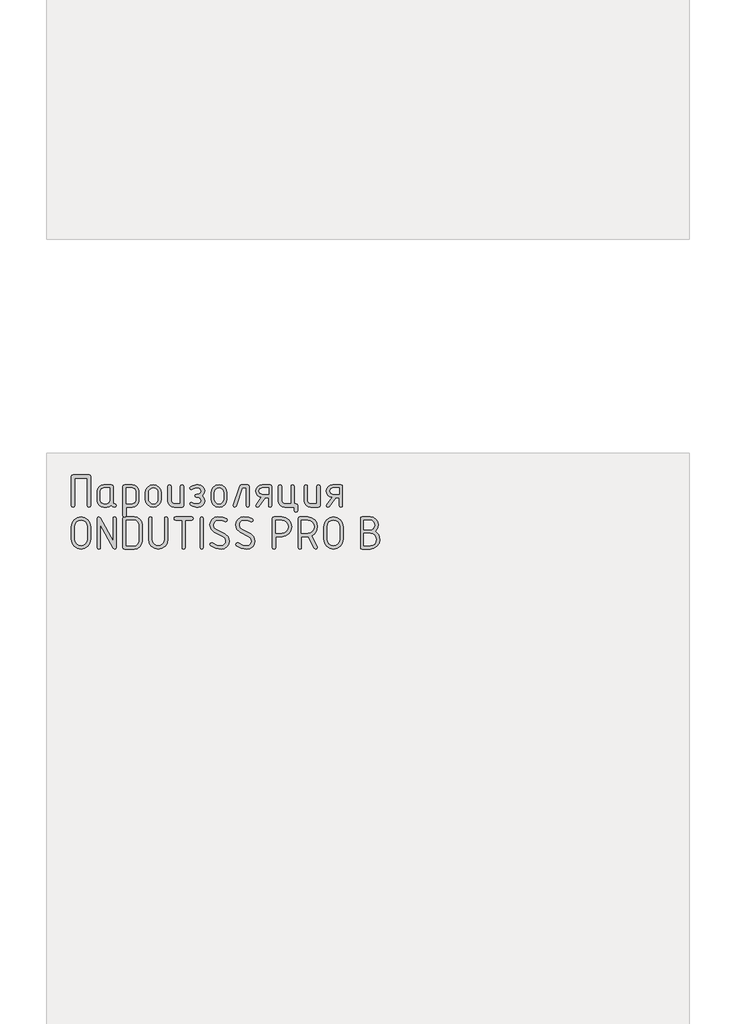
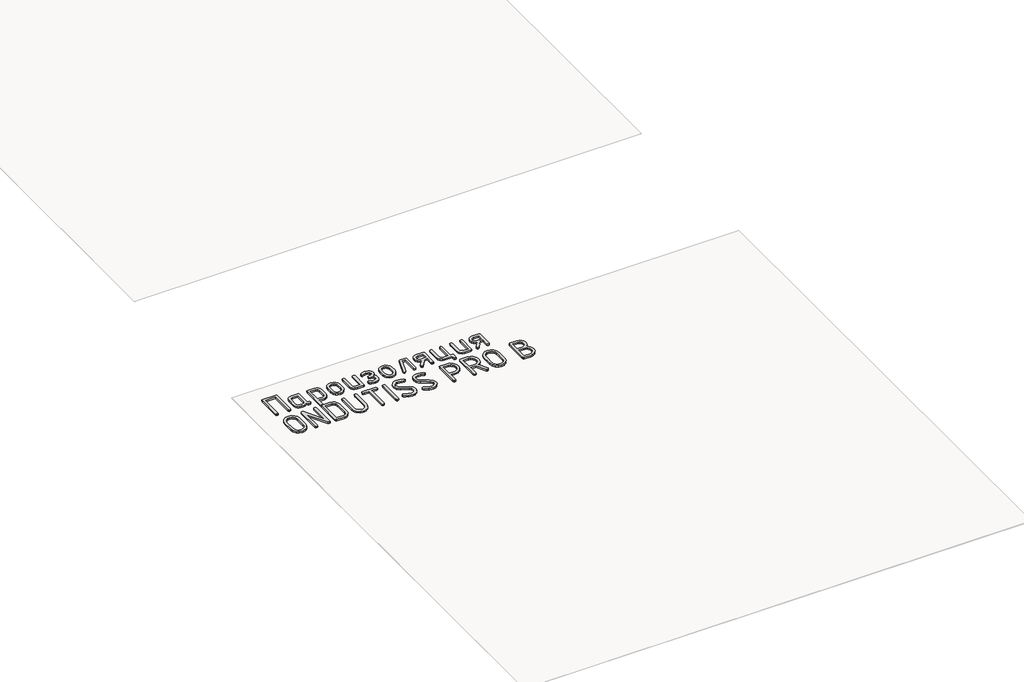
# One storey, part 9 of 42: 1 proxy.
"""IFC4 building model written with IfcOpenShell, lengths in millimetres."""

from ifc_helpers import new_model, si_unit, origin, origin_with_axes, place, context, project, spatial, polyline, outline, extrude, element, save

model = new_model("IFC4")

# Units and contexts
model_context = context("Model", 3, world=origin())
ifc_project = project(units=[si_unit("LENGTHUNIT", "METRE", prefix="MILLI")], contexts=[model_context])

# Site, building, storey
site = spatial("IfcSite", under=ifc_project)
building = spatial("IfcBuilding", under=site)
storey = spatial("IfcBuildingStorey", under=building, Name="Этаж 01", Elevation=0.0)

# Proxy
placement = place(None, origin())
element("IfcBuildingElementProxy", 1, Name="150 мм GOST Common", ObjectType="150 мм GOST Common", at=placement, inside=storey, context=model_context, shape_type="SweptSolid", body=[
    extrude(outline(polyline([(-17013.0545046, -38675.913887), (-16938.5048151, -38675.913887), (-16932.9016029, -38677.8016002), (-16931.0338655, -38683.4647398), (-16931.0338655, -38819.2202837), (-16932.9515424, -38824.8834233), (-16938.7045731, -38826.7711365), (-16944.4576038, -38824.8934112), (-16946.3752807, -38819.2602353), (-16946.3752807, -38691.2553022), (-17005.184039, -38691.2553022), (-17005.184039, -38819.2602353), (-17007.1017159, -38824.8934112), (-17012.8547466, -38826.7711365), (-17018.6077773, -38824.8834233), (-17020.5254542, -38819.2202837), (-17020.5254542, -38683.4647398), (-17018.6577168, -38677.8016002), (-17013.0545046, -38675.913887)])), origin_with_axes(), (0.0, 0.0, 1.0), 10.0),
    extrude(outline(polyline([(-16811.2190109, -38819.3001869), (-16813.0867483, -38824.9033991), (-16818.6899605, -38826.7711365), (-16828.1684781, -38824.7835443), (-16835.7492945, -38818.8207677), (-16844.8682477, -38824.7835443), (-16855.8449504, -38826.7711365), (-16870.7069464, -38826.7711365), (-16882.2030199, -38824.6037621), (-16891.7614407, -38818.1016388), (-16898.2036365, -38808.443339), (-16900.3510351, -38796.8074349), (-16900.3510351, -38751.9018342), (-16898.2036365, -38740.2659301), (-16891.7614407, -38730.6076303), (-16882.2030199, -38724.105507), (-16870.7069464, -38721.9381326), (-16833.6318596, -38721.9381326), (-16828.0586111, -38723.80587), (-16826.2008617, -38729.4090822), (-16826.2008617, -38804.3183361), (-16824.3281303, -38809.9215483), (-16818.7099363, -38811.7892857), (-16813.0917422, -38813.667011), (-16811.2190109, -38819.3001869)]), holes=[polyline([(-16841.5422768, -38737.2795478), (-16870.5071884, -38737.2795478), (-16880.7747501, -38741.6142966), (-16885.0096199, -38752.1015922), (-16885.0096199, -38796.6076769), (-16880.7347985, -38807.0550209), (-16870.5071884, -38811.4297213), (-16856.0447084, -38811.4297213), (-16845.7771467, -38807.0949725), (-16841.5422768, -38796.6076769), (-16841.5422768, -38737.2795478)])]), origin_with_axes(), (0.0, 0.0, 1.0), 10.0),
    extrude(outline(polyline([(-16780.1766161, -38729.4889854), (-16778.3188666, -38723.8258458), (-16772.7456181, -38721.9381326), (-16735.6705313, -38721.9381326), (-16724.1744578, -38724.105507), (-16714.6160371, -38730.6076303), (-16708.1738412, -38740.2659301), (-16706.0264426, -38751.9018342), (-16706.0264426, -38796.8074349), (-16708.1588594, -38808.3684298), (-16714.5561096, -38818.0417114), (-16724.0396212, -38824.5887802), (-16735.4308217, -38826.7711365), (-16764.8352009, -38826.7711365), (-16764.8352009, -38865.1246745), (-16766.7528778, -38870.8777052), (-16772.5059085, -38872.7953821), (-16778.2589392, -38870.9076689), (-16780.1766161, -38865.2445293), (-16780.1766161, -38729.4889854)]), holes=[polyline([(-16764.8352009, -38737.2795478), (-16764.8352009, -38811.4297213), (-16735.8702894, -38811.4297213), (-16725.6027276, -38807.0949725), (-16721.3678578, -38796.6076769), (-16721.3678578, -38752.1015922), (-16725.5428002, -38741.5543692), (-16735.8702894, -38737.2795478), (-16764.8352009, -38737.2795478)])]), origin_with_axes(), (0.0, 0.0, 1.0), 10.0),
    extrude(outline(polyline([(-16675.3436122, -38789.3364853), (-16675.3436122, -38759.3727838), (-16672.6318972, -38744.9802191), (-16664.4967522, -38732.8848716), (-16652.5162656, -38724.6748174), (-16638.2685255, -38721.9381326), (-16623.8709669, -38724.6448537), (-16611.9204439, -38732.7650168), (-16603.87519, -38744.8304006), (-16601.1934388, -38759.3727838), (-16601.1934388, -38789.3364853), (-16603.9051537, -38803.72905), (-16612.0402987, -38815.8243975), (-16624.0207854, -38824.0344517), (-16638.2685255, -38826.7711365), (-16652.5162656, -38824.0344517), (-16664.4967522, -38815.8243975), (-16672.6318972, -38803.72905), (-16675.3436122, -38789.3364853)]), holes=[polyline([(-16616.534854, -38788.8970177), (-16616.534854, -38758.8933645), (-16618.1279241, -38750.2638185), (-16622.9071345, -38742.9926269), (-16629.9336225, -38738.0486162), (-16638.2685255, -38736.4006126), (-16646.6034285, -38738.0486162), (-16653.6299165, -38742.9926269), (-16658.4091269, -38750.2638185), (-16660.002197, -38758.8933645), (-16660.002197, -38788.8970177), (-16658.4241087, -38797.606467), (-16653.6898439, -38804.8776585), (-16646.6783377, -38809.7917056), (-16638.2685255, -38811.4297213), (-16629.9336225, -38809.7817177), (-16622.9071345, -38804.8377069), (-16618.1279241, -38797.5565275), (-16616.534854, -38788.8970177)])]), origin_with_axes(), (0.0, 0.0, 1.0), 10.0),
    extrude(outline(polyline([(-16496.3604349, -38729.4090822), (-16496.3604349, -38819.3001869), (-16498.2181844, -38824.9033991), (-16503.7914329, -38826.7711365), (-16540.8665196, -38826.7711365), (-16552.3625931, -38824.6037621), (-16561.9210139, -38818.1016388), (-16568.3632097, -38808.443339), (-16570.5106084, -38796.8074349), (-16570.5106084, -38729.4090822), (-16568.5929315, -38723.80587), (-16562.8399008, -38721.9381326), (-16557.0868701, -38723.80587), (-16555.1691932, -38729.4090822), (-16555.1691932, -38796.5277737), (-16550.8943717, -38807.0150692), (-16540.6667616, -38811.4297213), (-16511.7018501, -38811.4297213), (-16511.7018501, -38729.4090822), (-16509.7841732, -38723.80587), (-16504.0311425, -38721.9381326), (-16498.2781118, -38723.80587), (-16496.3604349, -38729.4090822)])), origin_with_axes(), (0.0, 0.0, 1.0), 10.0),
    extrude(outline(polyline([(-16414.5395539, -38796.0483545), (-16418.5347141, -38784.7020995), (-16427.4039697, -38780.7468909), (-16437.0722574, -38780.7468909), (-16442.3858205, -38778.5495528), (-16444.543207, -38773.1161349), (-16442.3258931, -38767.6627412), (-16434.9148709, -38765.4054757), (-16432.6376296, -38765.4054757), (-16430.2405335, -38765.4054757), (-16418.5746657, -38761.3503881), (-16414.5395539, -38751.3425118), (-16418.8743027, -38741.3346354), (-16429.5613562, -38737.2795478), (-16437.0722574, -38737.2795478), (-16452.4536242, -38741.0949258), (-16461.3628315, -38744.9103038), (-16465.3579917, -38742.1736191), (-16467.0759106, -38736.9199834), (-16463.9996372, -38731.1769406), (-16454.7708171, -38726.013196), (-16437.0722574, -38721.9381326), (-16429.5613562, -38721.9381326), (-16417.8755126, -38724.0555675), (-16408.0673943, -38730.4078723), (-16401.4154526, -38739.8264625), (-16399.1981387, -38751.1427537), (-16401.8449323, -38764.4366493), (-16409.7853132, -38773.0761833), (-16401.8449323, -38782.2650518), (-16399.1981387, -38796.0883061), (-16401.4154526, -38807.9888895), (-16408.0673943, -38817.881905), (-16417.8755126, -38824.5488286), (-16429.5613562, -38826.7711365), (-16437.0722574, -38826.7711365), (-16454.8906719, -38822.8159279), (-16464.0296009, -38817.7420744), (-16467.0759106, -38811.7892857), (-16465.3579917, -38806.5156742), (-16461.2429767, -38803.7989653), (-16452.1140356, -38807.6143433), (-16437.0722574, -38811.4297213), (-16429.5613562, -38811.4297213), (-16418.9142543, -38806.935166), (-16414.5395539, -38796.0483545)])), origin_with_axes(), (0.0, 0.0, 1.0), 10.0),
    extrude(outline(polyline([(-16368.5153083, -38789.3364853), (-16368.5153083, -38759.3727838), (-16365.8035933, -38744.9802191), (-16357.6684483, -38732.8848716), (-16345.6879616, -38724.6748174), (-16331.4402215, -38721.9381326), (-16317.0426629, -38724.6448537), (-16305.09214, -38732.7650168), (-16297.0468861, -38744.8304006), (-16294.3651348, -38759.3727838), (-16294.3651348, -38789.3364853), (-16297.0768498, -38803.72905), (-16305.2119948, -38815.8243975), (-16317.1924814, -38824.0344517), (-16331.4402215, -38826.7711365), (-16345.6879616, -38824.0344517), (-16357.6684483, -38815.8243975), (-16365.8035933, -38803.72905), (-16368.5153083, -38789.3364853)]), holes=[polyline([(-16309.70655, -38788.8970177), (-16309.70655, -38758.8933645), (-16311.2996201, -38750.2638185), (-16316.0788305, -38742.9926269), (-16323.1053185, -38738.0486162), (-16331.4402215, -38736.4006126), (-16339.7751245, -38738.0486162), (-16346.8016125, -38742.9926269), (-16351.5808229, -38750.2638185), (-16353.1738931, -38758.8933645), (-16353.1738931, -38788.8970177), (-16351.5958048, -38797.606467), (-16346.8615399, -38804.8776585), (-16339.8500338, -38809.7917056), (-16331.4402215, -38811.4297213), (-16323.1053185, -38809.7817177), (-16316.0788305, -38804.8377069), (-16311.2996201, -38797.5565275), (-16309.70655, -38788.8970177)])]), origin_with_axes(), (0.0, 0.0, 1.0), 10.0),
    extrude(outline(polyline([(-16227.3662981, -38721.9381326), (-16197.2028386, -38721.9381326), (-16191.4498079, -38723.80587), (-16189.532131, -38729.4090822), (-16189.532131, -38819.3001869), (-16191.4498079, -38824.9033991), (-16197.2028386, -38826.7711365), (-16202.9558693, -38824.9033991), (-16204.8735462, -38819.3001869), (-16204.8735462, -38737.2795478), (-16222.0127834, -38737.2795478), (-16250.2985177, -38821.697283), (-16257.3699513, -38826.7711365), (-16263.0031272, -38824.8734354), (-16264.8808525, -38819.1803321), (-16264.5212881, -38816.9030908), (-16234.8771993, -38728.0507277), (-16231.9607324, -38723.4662814), (-16227.3662981, -38721.9381326)])), origin_with_axes(), (0.0, 0.0, 1.0), 10.0),
    extrude(outline(polyline([(-16133.3202268, -38781.6258261), (-16143.9024074, -38778.5046072), (-16152.47702, -38771.8576594), (-16158.1551415, -38762.663797), (-16160.0478486, -38751.9018342), (-16157.8704863, -38740.2659301), (-16151.3383994, -38730.6076303), (-16141.6601238, -38724.105507), (-16130.0441955, -38721.9381326), (-16092.3698347, -38721.9381326), (-16086.616804, -38723.80587), (-16084.6991271, -38729.4090822), (-16084.6991271, -38819.3001869), (-16086.616804, -38824.9033991), (-16092.3698347, -38826.7711365), (-16098.1228654, -38824.8934112), (-16100.0405423, -38819.2602353), (-16100.0405423, -38781.7856325), (-16115.2621027, -38781.7856325), (-16146.5042555, -38823.6948631), (-16152.5369474, -38826.7711365), (-16158.1701233, -38824.9033991), (-16160.0478486, -38819.3001869), (-16158.5696393, -38814.7457043), (-16133.3202268, -38781.6258261)]), holes=[polyline([(-16145.0260462, -38752.3013502), (-16140.5914184, -38762.8485732), (-16130.0441955, -38767.283201), (-16100.0405423, -38767.283201), (-16100.0405423, -38737.2795478), (-16130.0441955, -38737.2795478), (-16140.6513458, -38741.6542483), (-16145.0260462, -38752.3013502)])]), origin_with_axes(), (0.0, 0.0, 1.0), 10.0),
    extrude(outline(polyline([(-15972.1954157, -38811.4297213), (-15966.442385, -38813.3473982), (-15964.5247081, -38819.1004289), (-15964.5247081, -38842.1125517), (-15966.442385, -38847.8655824), (-15972.1954157, -38849.7832593), (-15977.9484464, -38847.8655824), (-15979.8661233, -38842.1125517), (-15979.8661233, -38826.7711365), (-16024.372208, -38826.7711365), (-16035.8682815, -38824.5887802), (-16045.4267023, -38818.0417114), (-16051.8688981, -38808.3684298), (-16054.0162967, -38796.8074349), (-16054.0162967, -38729.4090822), (-16052.0986198, -38723.80587), (-16046.3455891, -38721.9381326), (-16040.5925584, -38723.80587), (-16038.6748815, -38729.4090822), (-16038.6748815, -38796.5277737), (-16034.4000601, -38807.0150692), (-16024.17245, -38811.4297213), (-15995.2075385, -38811.4297213), (-15995.2075385, -38729.4090822), (-15993.2898616, -38723.80587), (-15987.5368309, -38721.9381326), (-15981.7838002, -38723.80587), (-15979.8661233, -38729.4090822), (-15979.8661233, -38811.4297213), (-15972.1954157, -38811.4297213)])), origin_with_axes(), (0.0, 0.0, 1.0), 10.0),
    extrude(outline(polyline([(-15859.6917042, -38729.4090822), (-15859.6917042, -38819.3001869), (-15861.5494537, -38824.9033991), (-15867.1227022, -38826.7711365), (-15904.1977889, -38826.7711365), (-15915.6938624, -38824.6037621), (-15925.2522832, -38818.1016388), (-15931.6944791, -38808.443339), (-15933.8418777, -38796.8074349), (-15933.8418777, -38729.4090822), (-15931.9242008, -38723.80587), (-15926.1711701, -38721.9381326), (-15920.4181394, -38723.80587), (-15918.5004625, -38729.4090822), (-15918.5004625, -38796.5277737), (-15914.225641, -38807.0150692), (-15903.9980309, -38811.4297213), (-15875.0331194, -38811.4297213), (-15875.0331194, -38729.4090822), (-15873.1154425, -38723.80587), (-15867.3624118, -38721.9381326), (-15861.6093811, -38723.80587), (-15859.6917042, -38729.4090822)])), origin_with_axes(), (0.0, 0.0, 1.0), 10.0),
    extrude(outline(polyline([(-15803.4798001, -38781.6258261), (-15814.0619807, -38778.5046072), (-15822.6365933, -38771.8576594), (-15828.3147147, -38762.663797), (-15830.2074219, -38751.9018342), (-15828.0300596, -38740.2659301), (-15821.4979726, -38730.6076303), (-15811.819697, -38724.105507), (-15800.2037687, -38721.9381326), (-15762.529408, -38721.9381326), (-15756.7763773, -38723.80587), (-15754.8587004, -38729.4090822), (-15754.8587004, -38819.3001869), (-15756.7763773, -38824.9033991), (-15762.529408, -38826.7711365), (-15768.2824387, -38824.8934112), (-15770.2001156, -38819.2602353), (-15770.2001156, -38781.7856325), (-15785.4216759, -38781.7856325), (-15816.6638288, -38823.6948631), (-15822.6965207, -38826.7711365), (-15828.3296966, -38824.9033991), (-15830.2074219, -38819.3001869), (-15828.7292126, -38814.7457043), (-15803.4798001, -38781.6258261)]), holes=[polyline([(-15815.1856195, -38752.3013502), (-15810.7509917, -38762.8485732), (-15800.2037687, -38767.283201), (-15770.2001156, -38767.283201), (-15770.2001156, -38737.2795478), (-15800.2037687, -38737.2795478), (-15810.8109191, -38741.6542483), (-15815.1856195, -38752.3013502)])]), origin_with_axes(), (0.0, 0.0, 1.0), 10.0),
    extrude(outline(polyline([(-16931.0338655, -38977.5302169), (-16934.3098969, -38994.8991759), (-16944.137991, -39009.5314502), (-16958.6004709, -39019.4793991), (-16975.7796598, -39022.7953821), (-16992.9588487, -39019.4793991), (-17007.4213287, -39009.5314502), (-17017.2494228, -38994.8991759), (-17020.5254542, -38977.5302169), (-17020.5254542, -38917.2032978), (-17017.2494228, -38899.8343388), (-17007.4213287, -38885.2020645), (-16992.9588487, -38875.2541156), (-16975.7796598, -38871.9381326), (-16958.5255617, -38875.2391337), (-16944.0780636, -38885.1421371), (-16934.294915, -38899.7594295), (-16931.0338655, -38917.2032978), (-16931.0338655, -38977.5302169)]), holes=[polyline([(-16946.3752807, -38977.4103621), (-16946.3752807, -38917.3231526), (-16948.5076975, -38905.6772606), (-16954.9049477, -38895.9889971), (-16964.3884593, -38889.4569101), (-16975.7796598, -38887.2795478), (-16987.1708604, -38889.4569101), (-16996.6543719, -38895.9889971), (-17003.0516222, -38905.6772606), (-17005.184039, -38917.3231526), (-17005.184039, -38977.4103621), (-17003.0516222, -38989.0562541), (-16996.6543719, -38998.7445176), (-16987.1708604, -39005.2766046), (-16975.7796598, -39007.4539669), (-16964.3884593, -39005.2766046), (-16954.9049477, -38998.7445176), (-16948.5076975, -38989.0562541), (-16946.3752807, -38977.4103621)])]), origin_with_axes(), (0.0, 0.0, 1.0), 10.0),
    extrude(outline(polyline([(-16826.2008617, -38986.1198114), (-16826.2008617, -38879.4889854), (-16824.2831848, -38873.8258458), (-16818.5301541, -38871.9381326), (-16812.7771234, -38873.8258458), (-16810.8594465, -38879.4889854), (-16810.8594465, -39015.2445293), (-16812.8969782, -39020.9076689), (-16819.0095733, -39022.7953821), (-16826.2008617, -39019.0399315), (-16885.0096199, -38908.4938485), (-16885.0096199, -39015.2445293), (-16886.9272968, -39020.9076689), (-16892.6803275, -39022.7953821), (-16898.4333582, -39020.9076689), (-16900.3510351, -39015.2445293), (-16900.3510351, -38879.4889854), (-16898.353455, -38873.8258458), (-16892.3607147, -38871.9381326), (-16885.0096199, -38876.4127121), (-16826.2008617, -38986.1198114)])), origin_with_axes(), (0.0, 0.0, 1.0), 10.0),
    extrude(outline(polyline([(-16780.1766161, -38879.4889854), (-16778.3088787, -38873.8258458), (-16772.7056665, -38871.9381326), (-16727.9598721, -38871.9381326), (-16713.4874043, -38874.6648295), (-16701.47196, -38882.84492), (-16693.3817605, -38895.0001949), (-16690.6850274, -38909.652445), (-16690.6850274, -38985.0810697), (-16693.4117242, -38999.5835013), (-16701.5918148, -39011.7687399), (-16713.6372228, -39020.0387215), (-16727.9598721, -39022.7953821), (-16772.7056665, -39022.7953821), (-16778.3088787, -39020.9076689), (-16780.1766161, -39015.2445293), (-16780.1766161, -38879.4889854)]), holes=[polyline([(-16764.8352009, -38887.2795478), (-16764.8352009, -39007.4539669), (-16728.079727, -39007.4539669), (-16719.6049934, -39005.8059633), (-16712.4786263, -39000.8619525), (-16707.6394885, -38993.580773), (-16706.0264426, -38984.9212633), (-16706.0264426, -38909.8122514), (-16707.6394885, -38901.1527416), (-16712.4786263, -38893.8715622), (-16719.6049934, -38888.9275514), (-16728.079727, -38887.2795478), (-16764.8352009, -38887.2795478)])]), origin_with_axes(), (0.0, 0.0, 1.0), 10.0),
    extrude(outline(polyline([(-16570.5106084, -38879.4889854), (-16570.5106084, -38977.5302169), (-16573.7866397, -38994.8991759), (-16583.6147338, -39009.5314502), (-16598.0772138, -39019.4793991), (-16615.2564027, -39022.7953821), (-16632.4355916, -39019.4793991), (-16646.8980715, -39009.5314502), (-16656.7261656, -38994.8991759), (-16660.002197, -38977.5302169), (-16660.002197, -38879.4889854), (-16658.0845201, -38873.8258458), (-16652.3314894, -38871.9381326), (-16646.5784587, -38873.8158579), (-16644.6607818, -38879.4490338), (-16644.6607818, -38977.3304589), (-16642.5283651, -38989.0113086), (-16636.1311148, -38998.7245418), (-16626.6476032, -39005.2716106), (-16615.2564027, -39007.4539669), (-16603.8652021, -39005.2716106), (-16594.3816906, -38998.7245418), (-16587.9844403, -38989.0113086), (-16585.8520236, -38977.3304589), (-16585.8520236, -38879.4490338), (-16583.9343467, -38873.8158579), (-16578.181316, -38871.9381326), (-16572.4282853, -38873.8258458), (-16570.5106084, -38879.4889854)])), origin_with_axes(), (0.0, 0.0, 1.0), 10.0),
    extrude(outline(polyline([(-16541.5456969, -38879.6088402), (-16539.6679716, -38873.8558095), (-16534.0347957, -38871.9381326), (-16458.6860741, -38871.9381326), (-16453.082862, -38873.8558095), (-16451.2151246, -38879.6088402), (-16453.082862, -38885.3618709), (-16458.6860741, -38887.2795478), (-16488.6897273, -38887.2795478), (-16488.6897273, -39015.2844809), (-16490.6074042, -39020.9176568), (-16496.3604349, -39022.7953821), (-16502.1134656, -39020.9176568), (-16504.0311425, -39015.2844809), (-16504.0311425, -38887.2795478), (-16534.0347957, -38887.2795478), (-16539.6679716, -38885.3618709), (-16541.5456969, -38879.6088402)])), origin_with_axes(), (0.0, 0.0, 1.0), 10.0),
    extrude(outline(polyline([(-16411.9826513, -39022.7953821), (-16417.735682, -39020.9076689), (-16419.6533589, -39015.2445293), (-16419.6533589, -38879.4889854), (-16417.735682, -38873.8258458), (-16411.9826513, -38871.9381326), (-16406.2296206, -38873.8258458), (-16404.3119437, -38879.4889854), (-16404.3119437, -39015.2445293), (-16406.2296206, -39020.9076689), (-16411.9826513, -39022.7953821)])), origin_with_axes(), (0.0, 0.0, 1.0), 10.0),
    extrude(outline(polyline([(-16284.1375247, -38985.1609729), (-16286.8792034, -38999.5535376), (-16295.1042394, -39011.7287883), (-16307.1646293, -39020.0287336), (-16321.4123694, -39022.7953821), (-16347.4308503, -39018.6104518), (-16370.353082, -39006.0556608), (-16373.6291133, -38999.9430657), (-16371.4317752, -38994.6494784), (-16366.1981153, -38992.4321645), (-16361.9632455, -38993.790519), (-16341.5080253, -39004.2578387), (-16321.7319822, -39007.4539669), (-16313.1823394, -39005.8009693), (-16305.991051, -39000.8419767), (-16301.1069677, -38993.5458154), (-16299.4789399, -38984.8813117), (-16302.5652011, -38972.9158069), (-16311.8239849, -38964.665801), (-16353.5334575, -38943.0120327), (-16368.6051994, -38929.3985243), (-16373.6291133, -38909.5725418), (-16370.9024165, -38895.1799771), (-16362.722326, -38883.0047264), (-16350.7268574, -38874.7047811), (-16336.5540266, -38871.9381326), (-16313.3721095, -38874.0256038), (-16296.4026665, -38880.2880175), (-16291.9680387, -38887.2795478), (-16294.1853526, -38892.5731351), (-16299.4789399, -38894.790449), (-16302.5951648, -38893.991417), (-16319.4747167, -38888.9575151), (-16336.2344138, -38887.2795478), (-16344.7091474, -38888.9325454), (-16351.8355144, -38893.891538), (-16356.6746522, -38901.1876993), (-16358.2876981, -38909.852203), (-16355.2513764, -38921.7877441), (-16346.1424111, -38929.9478588), (-16304.4728901, -38951.6016272), (-16289.221366, -38965.3050267), (-16284.1375247, -38985.1609729)])), origin_with_axes(), (0.0, 0.0, 1.0), 10.0),
    extrude(outline(polyline([(-16163.9631056, -38985.1609729), (-16166.7047843, -38999.5535376), (-16174.9298204, -39011.7287883), (-16186.9902103, -39020.0287336), (-16201.2379504, -39022.7953821), (-16227.2564312, -39018.6104518), (-16250.1786629, -39006.0556608), (-16253.4546943, -38999.9430657), (-16251.2573562, -38994.6494784), (-16246.0236963, -38992.4321645), (-16241.7888265, -38993.790519), (-16221.3336062, -39004.2578387), (-16201.5575632, -39007.4539669), (-16193.0079203, -39005.8009693), (-16185.816632, -39000.8419767), (-16180.9325486, -38993.5458154), (-16179.3045208, -38984.8813117), (-16182.3907821, -38972.9158069), (-16191.6495659, -38964.665801), (-16233.3590384, -38943.0120327), (-16248.4307803, -38929.3985243), (-16253.4546943, -38909.5725418), (-16250.7279974, -38895.1799771), (-16242.5479069, -38883.0047264), (-16230.5524384, -38874.7047811), (-16216.3796075, -38871.9381326), (-16193.1976904, -38874.0256038), (-16176.2282475, -38880.2880175), (-16171.7936196, -38887.2795478), (-16174.0109335, -38892.5731351), (-16179.3045208, -38894.790449), (-16182.4207458, -38893.991417), (-16199.3002977, -38888.9575151), (-16216.0599947, -38887.2795478), (-16224.5347283, -38888.9325454), (-16231.6610953, -38893.891538), (-16236.5002331, -38901.1876993), (-16238.1132791, -38909.852203), (-16235.0769573, -38921.7877441), (-16225.967992, -38929.9478588), (-16184.2984711, -38951.6016272), (-16169.046947, -38965.3050267), (-16163.9631056, -38985.1609729)])), origin_with_axes(), (0.0, 0.0, 1.0), 10.0),
    extrude(outline(polyline([(-16074.671275, -38871.9381326), (-16037.3964302, -38871.9381326), (-16020.1423321, -38875.2940672), (-16005.694834, -38885.3618709), (-15995.9116854, -38900.2238669), (-15992.6506359, -38917.9623782), (-15995.7418911, -38936.4999216), (-16005.0156568, -38951.2021111), (-16019.2334332, -38960.7904956), (-16037.1567206, -38963.9866238), (-16066.8008094, -38963.9866238), (-16066.8008094, -39015.4442873), (-16068.7184863, -39020.9576084), (-16074.471517, -39022.7953821), (-16080.2245477, -39020.9076689), (-16082.1422246, -39015.2445293), (-16082.1422246, -38879.4889854), (-16080.2744872, -38873.8258458), (-16074.671275, -38871.9381326)]), holes=[polyline([(-16066.8008094, -38887.2795478), (-16066.8008094, -38948.6452086), (-16037.3964302, -38948.6452086), (-16026.0052297, -38946.4229007), (-16016.5217182, -38939.7559772), (-16010.1244679, -38929.8629617), (-16007.9920511, -38917.9623782), (-16010.1244679, -38906.0617947), (-16016.5217182, -38896.1687793), (-16026.0052297, -38889.5018557), (-16037.3964302, -38887.2795478), (-16066.8008094, -38887.2795478)])]), origin_with_axes(), (0.0, 0.0, 1.0), 10.0),
    extrude(outline(polyline([(-15898.6445162, -38959.2723348), (-15872.4762169, -39011.8086915), (-15872.4762169, -39015.2445293), (-15874.9132646, -39020.5181407), (-15880.5064889, -39022.7953821), (-15887.8176321, -39018.6803671), (-15914.9048183, -38963.866769), (-15917.541624, -38963.9866238), (-15946.6263903, -38963.9866238), (-15946.6263903, -39015.4442873), (-15948.5440672, -39020.9576084), (-15954.2970979, -39022.7953821), (-15960.0501286, -39020.9076689), (-15961.9678055, -39015.2445293), (-15961.9678055, -38879.4889854), (-15960.1000681, -38873.8258458), (-15954.4968559, -38871.9381326), (-15917.2220112, -38871.9381326), (-15899.9679131, -38875.2391337), (-15885.520415, -38885.1421371), (-15875.7372664, -38899.7594295), (-15872.4762169, -38917.2032978), (-15874.1117356, -38931.533438), (-15879.0182917, -38943.3216576), (-15887.1958853, -38952.5679565), (-15898.6445162, -38959.2723348)]), holes=[polyline([(-15946.6263903, -38887.2795478), (-15946.6263903, -38948.6452086), (-15917.2220112, -38948.6452086), (-15905.8308107, -38946.4229007), (-15896.3472991, -38939.7559772), (-15889.9500488, -38929.8629617), (-15887.8176321, -38917.9623782), (-15889.9500488, -38906.0617947), (-15896.3472991, -38896.1687793), (-15905.8308107, -38889.5018557), (-15917.2220112, -38887.2795478), (-15946.6263903, -38887.2795478)])]), origin_with_axes(), (0.0, 0.0, 1.0), 10.0),
    extrude(outline(polyline([(-15752.3017978, -38977.5302169), (-15755.5778292, -38994.8991759), (-15765.4059233, -39009.5314502), (-15779.8684033, -39019.4793991), (-15797.0475922, -39022.7953821), (-15814.226781, -39019.4793991), (-15828.689261, -39009.5314502), (-15838.5173551, -38994.8991759), (-15841.7933865, -38977.5302169), (-15841.7933865, -38917.2032978), (-15838.5173551, -38899.8343388), (-15828.689261, -38885.2020645), (-15814.226781, -38875.2541156), (-15797.0475922, -38871.9381326), (-15779.793494, -38875.2391337), (-15765.3459959, -38885.1421371), (-15755.5628473, -38899.7594295), (-15752.3017978, -38917.2032978), (-15752.3017978, -38977.5302169)]), holes=[polyline([(-15767.643213, -38977.4103621), (-15767.643213, -38917.3231526), (-15769.7756298, -38905.6772606), (-15776.1728801, -38895.9889971), (-15785.6563916, -38889.4569101), (-15797.0475922, -38887.2795478), (-15808.4387927, -38889.4569101), (-15817.9223042, -38895.9889971), (-15824.3195545, -38905.6772606), (-15826.4519713, -38917.3231526), (-15826.4519713, -38977.4103621), (-15824.3195545, -38989.0562541), (-15817.9223042, -38998.7445176), (-15808.4387927, -39005.2766046), (-15797.0475922, -39007.4539669), (-15785.6563916, -39005.2766046), (-15776.1728801, -38998.7445176), (-15769.7756298, -38989.0562541), (-15767.643213, -38977.4103621)])]), origin_with_axes(), (0.0, 0.0, 1.0), 10.0),
    extrude(outline(polyline([(-15602.8428545, -38940.175469), (-15586.4527097, -38955.9863155), (-15580.9893281, -38978.1694425), (-15584.2653595, -38995.2837101), (-15594.0934536, -39009.7112324), (-15608.5559336, -39019.5243446), (-15625.7351224, -39022.7953821), (-15663.0099672, -39022.7953821), (-15668.6131794, -39020.9076689), (-15670.4809168, -39015.2445293), (-15670.4809168, -38879.4889854), (-15668.6231673, -38873.8258458), (-15663.0499188, -38871.9381326), (-15625.8549773, -38871.9381326), (-15611.4174671, -38874.714769), (-15599.4269925, -38883.044678), (-15591.3517749, -38895.4096988), (-15588.6600357, -38910.2916706), (-15592.2057404, -38926.9514887), (-15602.8428545, -38940.175469)]), holes=[polyline([(-15655.1395016, -38948.6452086), (-15655.1395016, -39007.4539669), (-15625.7351224, -39007.4539669), (-15614.3439219, -39005.3215501), (-15604.8604104, -38998.9242998), (-15598.4631601, -38989.4407883), (-15596.3307433, -38978.0495877), (-15598.4631601, -38966.6583872), (-15604.8604104, -38957.1748757), (-15614.3439219, -38950.7776254), (-15625.7351224, -38948.6452086), (-15655.1395016, -38948.6452086)]), polyline([(-15655.1395016, -38887.2795478), (-15655.1395016, -38933.3037934), (-15625.9348805, -38933.3037934), (-15617.5000985, -38931.6208322), (-15610.413683, -38926.5719485), (-15605.6045089, -38919.1359565), (-15604.0014509, -38910.2916706), (-15605.6045089, -38901.4473847), (-15610.413683, -38894.0113928), (-15617.5000985, -38888.9625091), (-15625.9348805, -38887.2795478), (-15655.1395016, -38887.2795478)])]), origin_with_axes(), (0.0, 0.0, 1.0), 10.0),
])

save(model, "model.ifc")
